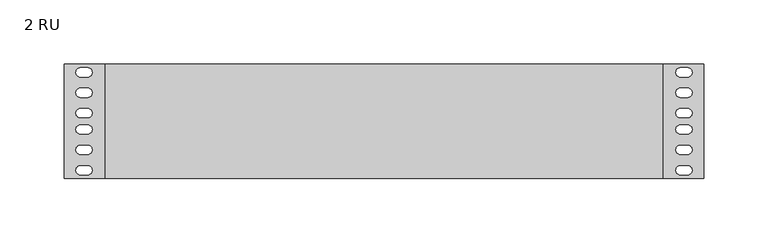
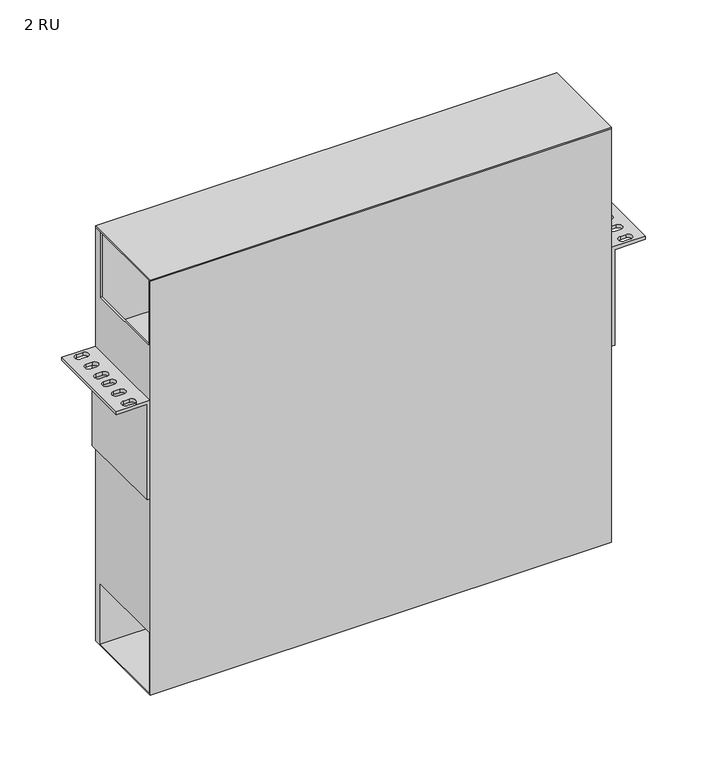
"""IFC4 building model written with IfcOpenShell, lengths in millimetres: electric appliance geometry, Housing-Rack_Mount-Corning-LANScape : 2 RU."""

from ifc_helpers import new_model, si_unit, frame, origin, place, context, project, spatial, polyline, circle_curve, outline, extrude, faceted_brep, source, transform, mapped, element, save
from ifc_brep_helpers import plane_surface, revolved_surface, advanced_brep


def electric_appliance_2_ru_f6e7ead4(model_context):
    return source(origin(), model_context, "Body", "SolidModel", [
        extrude(outline(polyline([(216.5858, 0.0), (216.5858, -88.9), (-216.5858, -88.9), (-216.5858, 0.0), (216.5858, 0.0)])), frame((0.0, 0.0, 120.9548), z_axis=(0.0, 0.0, 1.0), x_axis=(1.0, 0.0, 0.0)), (0.0, 0.0, 1.0), 1.39446),
        faceted_brep([(216.5858, -88.9, 120.9548), (-216.5858, -88.9, 120.9548), (-216.5858, -88.9, -289.3568), (216.5858, -88.9, -289.3568), (216.5858, 0.0, 120.9548), (216.5858, 0.0, -289.3568), (-216.5858, 0.0, -289.3568), (-216.5858, 0.0, 120.9548), (216.5858, -87.3125, 120.9548), (-216.5858, -87.3125, 120.9548), (-216.5858, -7.9375, 120.9548), (-214.9983, -7.9375, 120.9548), (-214.9983, -1.5875, 120.9548), (214.9983, -1.5875, 120.9548), (214.9983, -7.9375, 120.9548), (216.5858, -7.9375, 120.9548), (-216.5858, -87.3125, 56.36514), (-216.5858, -7.9375, 56.36514), (-216.5858, -87.3125, -228.39172), (-216.5858, -87.3125, -287.7693), (-216.5858, -7.9375, -287.7693), (-216.5858, -7.9375, -228.39172), (216.5858, -7.9375, 56.36514), (216.5858, -87.3125, 56.36514), (216.5858, -87.3125, -287.7693), (216.5858, -87.3125, -228.39172), (216.5858, -7.9375, -228.39172), (216.5858, -7.9375, -287.7693), (-214.9983, -1.5875, 21.08454), (214.9983, -1.5875, 21.08454), (214.9983, -87.3125, 21.08454), (-214.9983, -87.3125, 21.08454), (-214.9983, -87.3125, 56.36514), (214.9983, -87.3125, 56.36514), (214.9983, -7.9375, 56.36514), (-214.9983, -7.9375, 56.36514)], [[[0, 1, 2, 3]], [[4, 5, 6, 7]], [[1, 0, 8, 9]], [[4, 7, 10, 11, 12, 13, 14, 15]], [[2, 1, 9, 16, 17, 10, 7, 6], [18, 19, 20, 21]], [[3, 2, 6, 5]], [[0, 3, 5, 4, 15, 22, 23, 8], [24, 25, 26, 27]], [[12, 28, 29, 13]], [[30, 31, 32, 16, 9, 8, 23, 33]], [[13, 29, 30, 33, 34, 14]], [[29, 28, 31, 30]], [[28, 12, 11, 35, 32, 31]], [[18, 25, 24, 19]], [[19, 24, 27, 20]], [[20, 27, 26, 21]], [[25, 18, 21, 26]], [[16, 32, 35, 17]], [[33, 23, 22, 34]], [[34, 22, 15, 14]], [[17, 35, 11, 10]]]),
        advanced_brep(
        [(-248.4374, -88.9, 0.0), (-219.45346, -88.9, 0.0), (-219.45346, -88.9, -94.74708), (-216.5858, -88.9, -94.74708), (-216.5858, -88.9, 3.05054), (-248.4374, -88.9, 3.05054), (-248.4374, 0.0, 0.0), (-248.4374, 0.0, 3.05054), (-216.5858, 0.0, 3.05054), (-216.5858, 0.0, -94.74708), (-219.45346, 0.0, -94.74708), (-219.45346, 0.0, 0.0), (-230.3272, -2.794, 0.0), (-235.9152, -2.794, 0.0), (-235.9152, -9.906, 0.0), (-230.3272, -9.906, 0.0), (-230.3272, -18.669, 0.0), (-235.9152, -18.669, 0.0), (-235.9152, -25.781, 0.0), (-230.3272, -25.781, 0.0), (-230.3272, -34.544, 0.0), (-235.9152, -34.544, 0.0), (-235.9152, -41.656, 0.0), (-230.3272, -41.656, 0.0), (-230.3272, -47.244, 0.0), (-235.9152, -47.244, 0.0), (-235.9152, -54.356, 0.0), (-230.3272, -54.356, 0.0), (-230.3272, -63.119, 0.0), (-235.9152, -63.119, 0.0), (-235.9152, -70.231, 0.0), (-230.3272, -70.231, 0.0), (-230.3272, -78.994, 0.0), (-235.9152, -78.994, 0.0), (-235.9152, -86.106, 0.0), (-230.3272, -86.106, 0.0), (-235.9152, -2.794, 3.05054), (-230.3272, -2.794, 3.05054), (-230.3272, -9.906, 3.05054), (-235.9152, -9.906, 3.05054), (-235.9152, -18.669, 3.05054), (-230.3272, -18.669, 3.05054), (-230.3272, -25.781, 3.05054), (-235.9152, -25.781, 3.05054), (-235.9152, -34.544, 3.05054), (-230.3272, -34.544, 3.05054), (-230.3272, -41.656, 3.05054), (-235.9152, -41.656, 3.05054), (-235.9152, -47.244, 3.05054), (-230.3272, -47.244, 3.05054), (-230.3272, -54.356, 3.05054), (-235.9152, -54.356, 3.05054), (-235.9152, -63.119, 3.05054), (-230.3272, -63.119, 3.05054), (-230.3272, -70.231, 3.05054), (-235.9152, -70.231, 3.05054), (-235.9152, -78.994, 3.05054), (-230.3272, -78.994, 3.05054), (-230.3272, -86.106, 3.05054), (-235.9152, -86.106, 3.05054)],
        [
            (0, 1),
            (1, 2),
            (2, 3),
            (3, 4),
            (4, 5),
            (5, 0),
            (6, 7),
            (7, 8),
            (8, 9),
            (9, 10),
            (10, 11),
            (11, 6),
            (0, 6),
            (11, 1),
            (12, 13),
            (13, 14, circle_curve(frame((-235.9152, -6.35, 0.0), z_axis=(0.0, 0.0, 1.0), x_axis=(-1.0, 0.0, 0.0)), 3.556)),
            (14, 15),
            (15, 12, circle_curve(frame((-230.3272, -6.35, 0.0), z_axis=(0.0, 0.0, 1.0), x_axis=(-1.0, 0.0, 0.0)), 3.556)),
            (16, 17),
            (17, 18, circle_curve(frame((-235.9152, -22.225, 0.0), z_axis=(0.0, 0.0, 1.0), x_axis=(-1.0, 0.0, 0.0)), 3.556)),
            (18, 19),
            (19, 16, circle_curve(frame((-230.3272, -22.225, 0.0), z_axis=(0.0, 0.0, 1.0), x_axis=(-1.0, 0.0, 0.0)), 3.556)),
            (20, 21),
            (21, 22, circle_curve(frame((-235.9152, -38.1, 0.0), z_axis=(0.0, 0.0, 1.0), x_axis=(-1.0, 0.0, 0.0)), 3.556)),
            (22, 23),
            (23, 20, circle_curve(frame((-230.3272, -38.1, 0.0), z_axis=(0.0, 0.0, 1.0), x_axis=(-1.0, 0.0, 0.0)), 3.556)),
            (24, 25),
            (25, 26, circle_curve(frame((-235.9152, -50.8, 0.0), z_axis=(0.0, 0.0, 1.0), x_axis=(-1.0, 0.0, 0.0)), 3.556)),
            (26, 27),
            (27, 24, circle_curve(frame((-230.3272, -50.8, 0.0), z_axis=(0.0, 0.0, 1.0), x_axis=(-1.0, 0.0, 0.0)), 3.556)),
            (28, 29),
            (29, 30, circle_curve(frame((-235.9152, -66.675, 0.0), z_axis=(0.0, 0.0, 1.0), x_axis=(-1.0, 0.0, 0.0)), 3.556)),
            (30, 31),
            (31, 28, circle_curve(frame((-230.3272, -66.675, 0.0), z_axis=(0.0, 0.0, 1.0), x_axis=(-1.0, 0.0, 0.0)), 3.556)),
            (32, 33),
            (33, 34, circle_curve(frame((-235.9152, -82.55, 0.0), z_axis=(0.0, 0.0, 1.0), x_axis=(-1.0, 0.0, 0.0)), 3.556)),
            (34, 35),
            (35, 32, circle_curve(frame((-230.3272, -82.55, 0.0), z_axis=(0.0, 0.0, 1.0), x_axis=(-1.0, 0.0, 0.0)), 3.556)),
            (10, 2),
            (9, 3),
            (8, 4),
            (7, 5),
            (36, 37),
            (37, 38, circle_curve(frame((-230.3272, -6.35, 3.05054), z_axis=(0.0, 0.0, -1.0), x_axis=(-1.0, 0.0, 0.0)), 3.556)),
            (38, 39),
            (39, 36, circle_curve(frame((-235.9152, -6.35, 3.05054), z_axis=(0.0, 0.0, -1.0), x_axis=(-1.0, 0.0, 0.0)), 3.556)),
            (40, 41),
            (41, 42, circle_curve(frame((-230.3272, -22.225, 3.05054), z_axis=(0.0, 0.0, -1.0), x_axis=(-1.0, 0.0, 0.0)), 3.556)),
            (42, 43),
            (43, 40, circle_curve(frame((-235.9152, -22.225, 3.05054), z_axis=(0.0, 0.0, -1.0), x_axis=(-1.0, 0.0, 0.0)), 3.556)),
            (44, 45),
            (45, 46, circle_curve(frame((-230.3272, -38.1, 3.05054), z_axis=(0.0, 0.0, -1.0), x_axis=(-1.0, 0.0, 0.0)), 3.556)),
            (46, 47),
            (47, 44, circle_curve(frame((-235.9152, -38.1, 3.05054), z_axis=(0.0, 0.0, -1.0), x_axis=(-1.0, 0.0, 0.0)), 3.556)),
            (48, 49),
            (49, 50, circle_curve(frame((-230.3272, -50.8, 3.05054), z_axis=(0.0, 0.0, -1.0), x_axis=(-1.0, 0.0, 0.0)), 3.556)),
            (50, 51),
            (51, 48, circle_curve(frame((-235.9152, -50.8, 3.05054), z_axis=(0.0, 0.0, -1.0), x_axis=(-1.0, 0.0, 0.0)), 3.556)),
            (52, 53),
            (53, 54, circle_curve(frame((-230.3272, -66.675, 3.05054), z_axis=(0.0, 0.0, -1.0), x_axis=(-1.0, 0.0, 0.0)), 3.556)),
            (54, 55),
            (55, 52, circle_curve(frame((-235.9152, -66.675, 3.05054), z_axis=(0.0, 0.0, -1.0), x_axis=(-1.0, 0.0, 0.0)), 3.556)),
            (56, 57),
            (57, 58, circle_curve(frame((-230.3272, -82.55, 3.05054), z_axis=(0.0, 0.0, -1.0), x_axis=(-1.0, 0.0, 0.0)), 3.556)),
            (58, 59),
            (59, 56, circle_curve(frame((-235.9152, -82.55, 3.05054), z_axis=(0.0, 0.0, -1.0), x_axis=(-1.0, 0.0, 0.0)), 3.556)),
            (36, 13),
            (12, 37),
            (39, 14),
            (38, 15),
            (40, 17),
            (16, 41),
            (43, 18),
            (42, 19),
            (44, 21),
            (20, 45),
            (47, 22),
            (46, 23),
            (48, 25),
            (24, 49),
            (51, 26),
            (50, 27),
            (52, 29),
            (28, 53),
            (55, 30),
            (54, 31),
            (56, 33),
            (32, 57),
            (59, 34),
            (58, 35),
        ],
        [
            plane_surface(frame((-216.5858, -88.9, 0.0), z_axis=(0.0, -1.0, 0.0), x_axis=(1.0, 0.0, 0.0))),
            plane_surface(frame((-216.5858, 0.0, 0.0), z_axis=(0.0, 1.0, 0.0), x_axis=(-1.0, 0.0, 0.0))),
            plane_surface(frame((-248.4374, -88.9, 0.0), z_axis=(0.0, 0.0, -1.0), x_axis=(0.0, 1.0, 0.0))),
            plane_surface(frame((-219.45346, -88.9, 0.0), z_axis=(-1.0, 0.0, 0.0), x_axis=(0.0, 1.0, 0.0))),
            plane_surface(frame((-219.45346, -88.9, -94.74708), z_axis=(0.0, 0.0, -1.0), x_axis=(0.0, 1.0, 0.0))),
            plane_surface(frame((-216.5858, -88.9, -94.74708), z_axis=(1.0, 0.0, 0.0), x_axis=(0.0, 1.0, 0.0))),
            plane_surface(frame((-216.5858, -88.9, 3.05054), z_axis=(0.0, 0.0, 1.0), x_axis=(0.0, 1.0, 0.0))),
            plane_surface(frame((-248.4374, -88.9, 3.05054), z_axis=(-1.0, 0.0, 0.0), x_axis=(0.0, 1.0, 0.0))),
            plane_surface(frame((-230.3272, -2.794, 3.05054), z_axis=(0.0, -1.0, 0.0), x_axis=(0.0, 0.0, -1.0))),
            revolved_surface(polyline([(-239.4712, -6.35, 3.05054), (-239.4712, -6.35, 0.0)]), (-235.9152, -6.35, 0.0), (0.0, 0.0, 1.0)),
            plane_surface(frame((-235.9152, -9.906, 3.05054), z_axis=(0.0, 1.0, 0.0), x_axis=(0.0, 0.0, -1.0))),
            revolved_surface(polyline([(-233.88320000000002, -6.35, 3.05054), (-233.88320000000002, -6.35, 0.0)]), (-230.3272, -6.35, 0.0), (0.0, 0.0, 1.0)),
            plane_surface(frame((-230.3272, -18.669, 3.05054), z_axis=(0.0, -1.0, 0.0), x_axis=(0.0, 0.0, -1.0))),
            revolved_surface(polyline([(-239.4712, -22.225, 3.05054), (-239.4712, -22.225, 0.0)]), (-235.9152, -22.225, 0.0), (0.0, 0.0, 1.0)),
            plane_surface(frame((-235.9152, -25.781, 3.05054), z_axis=(0.0, 1.0, 0.0), x_axis=(0.0, 0.0, -1.0))),
            revolved_surface(polyline([(-233.88320000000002, -22.225, 3.05054), (-233.88320000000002, -22.225, 0.0)]), (-230.3272, -22.225, 0.0), (0.0, 0.0, 1.0)),
            plane_surface(frame((-230.3272, -34.544, 3.05054), z_axis=(0.0, -1.0, 0.0), x_axis=(0.0, 0.0, -1.0))),
            revolved_surface(polyline([(-239.4712, -38.1, 3.05054), (-239.4712, -38.1, 0.0)]), (-235.9152, -38.1, 0.0), (0.0, 0.0, 1.0)),
            plane_surface(frame((-235.9152, -41.656, 3.05054), z_axis=(0.0, 1.0, 0.0), x_axis=(0.0, 0.0, -1.0))),
            revolved_surface(polyline([(-233.88320000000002, -38.1, 3.05054), (-233.88320000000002, -38.1, 0.0)]), (-230.3272, -38.1, 0.0), (0.0, 0.0, 1.0)),
            plane_surface(frame((-230.3272, -47.244, 3.05054), z_axis=(0.0, -1.0, 0.0), x_axis=(0.0, 0.0, -1.0))),
            revolved_surface(polyline([(-239.4712, -50.8, 3.05054), (-239.4712, -50.8, 0.0)]), (-235.9152, -50.8, 0.0), (0.0, 0.0, 1.0)),
            plane_surface(frame((-235.9152, -54.356, 3.05054), z_axis=(0.0, 1.0, 0.0), x_axis=(0.0, 0.0, -1.0))),
            revolved_surface(polyline([(-233.88320000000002, -50.8, 3.05054), (-233.88320000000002, -50.8, 0.0)]), (-230.3272, -50.8, 0.0), (0.0, 0.0, 1.0)),
            plane_surface(frame((-230.3272, -63.119, 3.05054), z_axis=(0.0, -1.0, 0.0), x_axis=(0.0, 0.0, -1.0))),
            revolved_surface(polyline([(-239.4712, -66.675, 3.05054), (-239.4712, -66.675, 0.0)]), (-235.9152, -66.675, 0.0), (0.0, 0.0, 1.0)),
            plane_surface(frame((-235.9152, -70.231, 3.05054), z_axis=(0.0, 1.0, 0.0), x_axis=(0.0, 0.0, -1.0))),
            revolved_surface(polyline([(-233.88320000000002, -66.675, 3.05054), (-233.88320000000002, -66.675, 0.0)]), (-230.3272, -66.675, 0.0), (0.0, 0.0, 1.0)),
            plane_surface(frame((-230.3272, -78.994, 3.05054), z_axis=(0.0, -1.0, 0.0), x_axis=(0.0, 0.0, -1.0))),
            revolved_surface(polyline([(-239.4712, -82.55, 3.05054), (-239.4712, -82.55, 0.0)]), (-235.9152, -82.55, 0.0), (0.0, 0.0, 1.0)),
            plane_surface(frame((-235.9152, -86.106, 3.05054), z_axis=(0.0, 1.0, 0.0), x_axis=(0.0, 0.0, -1.0))),
            revolved_surface(polyline([(-233.88320000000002, -82.55, 3.05054), (-233.88320000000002, -82.55, 0.0)]), (-230.3272, -82.55, 0.0), (0.0, 0.0, 1.0)),
        ],
        [
            (0, [[1, 2, 3, 4, 5, 6]]),
            (1, [[7, 8, 9, 10, 11, 12]]),
            (2, [[-1, 13, -12, 14], [15, 16, 17, 18], [19, 20, 21, 22], [23, 24, 25, 26], [27, 28, 29, 30], [31, 32, 33, 34], [35, 36, 37, 38]]),
            (3, [[-2, -14, -11, 39]]),
            (4, [[-3, -39, -10, 40]]),
            (5, [[-4, -40, -9, 41]]),
            (6, [[-5, -41, -8, 42], [43, 44, 45, 46], [47, 48, 49, 50], [51, 52, 53, 54], [55, 56, 57, 58], [59, 60, 61, 62], [63, 64, 65, 66]]),
            (7, [[-6, -42, -7, -13]]),
            (8, [[67, -15, 68, -43]]),
            (9, [[-67, -46, 69, -16]]),
            (10, [[-69, -45, 70, -17]]),
            (11, [[-68, -18, -70, -44]]),
            (12, [[71, -19, 72, -47]]),
            (13, [[-71, -50, 73, -20]]),
            (14, [[-73, -49, 74, -21]]),
            (15, [[-72, -22, -74, -48]]),
            (16, [[75, -23, 76, -51]]),
            (17, [[-75, -54, 77, -24]]),
            (18, [[-77, -53, 78, -25]]),
            (19, [[-76, -26, -78, -52]]),
            (20, [[79, -27, 80, -55]]),
            (21, [[-79, -58, 81, -28]]),
            (22, [[-81, -57, 82, -29]]),
            (23, [[-80, -30, -82, -56]]),
            (24, [[83, -31, 84, -59]]),
            (25, [[-83, -62, 85, -32]]),
            (26, [[-85, -61, 86, -33]]),
            (27, [[-84, -34, -86, -60]]),
            (28, [[87, -35, 88, -63]]),
            (29, [[-87, -66, 89, -36]]),
            (30, [[-89, -65, 90, -37]]),
            (31, [[-88, -38, -90, -64]]),
        ],
    ),
        advanced_brep(
        [(248.4374, -88.9, 0.0), (248.4374, -88.9, 3.05054), (216.5858, -88.9, 3.05054), (216.5858, -88.9, -94.74708), (219.45346, -88.9, -94.74708), (219.45346, -88.9, 0.0), (248.4374, 0.0, 0.0), (219.45346, 0.0, 0.0), (219.45346, 0.0, -94.74708), (216.5858, 0.0, -94.74708), (216.5858, 0.0, 3.05054), (248.4374, 0.0, 3.05054), (230.3272, -9.906, 3.05054), (230.3272, -2.794, 3.05054), (235.9152, -2.794, 3.05054), (235.9152, -9.906, 3.05054), (230.3272, -25.781, 3.05054), (230.3272, -18.669, 3.05054), (235.9152, -18.669, 3.05054), (235.9152, -25.781, 3.05054), (230.3272, -41.656, 3.05054), (230.3272, -34.544, 3.05054), (235.9152, -34.544, 3.05054), (235.9152, -41.656, 3.05054), (230.3272, -54.356, 3.05054), (230.3272, -47.244, 3.05054), (235.9152, -47.244, 3.05054), (235.9152, -54.356, 3.05054), (230.3272, -70.231, 3.05054), (230.3272, -63.119, 3.05054), (235.9152, -63.119, 3.05054), (235.9152, -70.231, 3.05054), (230.3272, -86.106, 3.05054), (230.3272, -78.994, 3.05054), (235.9152, -78.994, 3.05054), (235.9152, -86.106, 3.05054), (230.3272, -2.794, 0.0), (230.3272, -9.906, 0.0), (235.9152, -9.906, 0.0), (235.9152, -2.794, 0.0), (230.3272, -18.669, 0.0), (230.3272, -25.781, 0.0), (235.9152, -25.781, 0.0), (235.9152, -18.669, 0.0), (230.3272, -34.544, 0.0), (230.3272, -41.656, 0.0), (235.9152, -41.656, 0.0), (235.9152, -34.544, 0.0), (230.3272, -47.244, 0.0), (230.3272, -54.356, 0.0), (235.9152, -54.356, 0.0), (235.9152, -47.244, 0.0), (230.3272, -63.119, 0.0), (230.3272, -70.231, 0.0), (235.9152, -70.231, 0.0), (235.9152, -63.119, 0.0), (230.3272, -78.994, 0.0), (230.3272, -86.106, 0.0), (235.9152, -86.106, 0.0), (235.9152, -78.994, 0.0)],
        [
            (0, 1),
            (1, 2),
            (2, 3),
            (3, 4),
            (4, 5),
            (5, 0),
            (6, 7),
            (7, 8),
            (8, 9),
            (9, 10),
            (10, 11),
            (11, 6),
            (0, 6),
            (11, 1),
            (10, 2),
            (12, 13, circle_curve(frame((230.3272, -6.35, 3.05054), z_axis=(0.0, 0.0, -1.0), x_axis=(-1.0, 0.0, 0.0)), 3.556)),
            (13, 14),
            (14, 15, circle_curve(frame((235.9152, -6.35, 3.05054), z_axis=(0.0, 0.0, -1.0), x_axis=(-1.0, 0.0, 0.0)), 3.556)),
            (15, 12),
            (16, 17, circle_curve(frame((230.3272, -22.225, 3.05054), z_axis=(0.0, 0.0, -1.0), x_axis=(-1.0, 0.0, 0.0)), 3.556)),
            (17, 18),
            (18, 19, circle_curve(frame((235.9152, -22.225, 3.05054), z_axis=(0.0, 0.0, -1.0), x_axis=(-1.0, 0.0, 0.0)), 3.556)),
            (19, 16),
            (20, 21, circle_curve(frame((230.3272, -38.1, 3.05054), z_axis=(0.0, 0.0, -1.0), x_axis=(-1.0, 0.0, 0.0)), 3.556)),
            (21, 22),
            (22, 23, circle_curve(frame((235.9152, -38.1, 3.05054), z_axis=(0.0, 0.0, -1.0), x_axis=(-1.0, 0.0, 0.0)), 3.556)),
            (23, 20),
            (24, 25, circle_curve(frame((230.3272, -50.8, 3.05054), z_axis=(0.0, 0.0, -1.0), x_axis=(-1.0, 0.0, 0.0)), 3.556)),
            (25, 26),
            (26, 27, circle_curve(frame((235.9152, -50.8, 3.05054), z_axis=(0.0, 0.0, -1.0), x_axis=(-1.0, 0.0, 0.0)), 3.556)),
            (27, 24),
            (28, 29, circle_curve(frame((230.3272, -66.675, 3.05054), z_axis=(0.0, 0.0, -1.0), x_axis=(-1.0, 0.0, 0.0)), 3.556)),
            (29, 30),
            (30, 31, circle_curve(frame((235.9152, -66.675, 3.05054), z_axis=(0.0, 0.0, -1.0), x_axis=(-1.0, 0.0, 0.0)), 3.556)),
            (31, 28),
            (32, 33, circle_curve(frame((230.3272, -82.55, 3.05054), z_axis=(0.0, 0.0, -1.0), x_axis=(-1.0, 0.0, 0.0)), 3.556)),
            (33, 34),
            (34, 35, circle_curve(frame((235.9152, -82.55, 3.05054), z_axis=(0.0, 0.0, -1.0), x_axis=(-1.0, 0.0, 0.0)), 3.556)),
            (35, 32),
            (9, 3),
            (8, 4),
            (7, 5),
            (36, 37, circle_curve(frame((230.3272, -6.35, 0.0), z_axis=(0.0, 0.0, 1.0), x_axis=(-1.0, 0.0, 0.0)), 3.556)),
            (37, 38),
            (38, 39, circle_curve(frame((235.9152, -6.35, 0.0), z_axis=(0.0, 0.0, 1.0), x_axis=(-1.0, 0.0, 0.0)), 3.556)),
            (39, 36),
            (40, 41, circle_curve(frame((230.3272, -22.225, 0.0), z_axis=(0.0, 0.0, 1.0), x_axis=(-1.0, 0.0, 0.0)), 3.556)),
            (41, 42),
            (42, 43, circle_curve(frame((235.9152, -22.225, 0.0), z_axis=(0.0, 0.0, 1.0), x_axis=(-1.0, 0.0, 0.0)), 3.556)),
            (43, 40),
            (44, 45, circle_curve(frame((230.3272, -38.1, 0.0), z_axis=(0.0, 0.0, 1.0), x_axis=(-1.0, 0.0, 0.0)), 3.556)),
            (45, 46),
            (46, 47, circle_curve(frame((235.9152, -38.1, 0.0), z_axis=(0.0, 0.0, 1.0), x_axis=(-1.0, 0.0, 0.0)), 3.556)),
            (47, 44),
            (48, 49, circle_curve(frame((230.3272, -50.8, 0.0), z_axis=(0.0, 0.0, 1.0), x_axis=(-1.0, 0.0, 0.0)), 3.556)),
            (49, 50),
            (50, 51, circle_curve(frame((235.9152, -50.8, 0.0), z_axis=(0.0, 0.0, 1.0), x_axis=(-1.0, 0.0, 0.0)), 3.556)),
            (51, 48),
            (52, 53, circle_curve(frame((230.3272, -66.675, 0.0), z_axis=(0.0, 0.0, 1.0), x_axis=(-1.0, 0.0, 0.0)), 3.556)),
            (53, 54),
            (54, 55, circle_curve(frame((235.9152, -66.675, 0.0), z_axis=(0.0, 0.0, 1.0), x_axis=(-1.0, 0.0, 0.0)), 3.556)),
            (55, 52),
            (56, 57, circle_curve(frame((230.3272, -82.55, 0.0), z_axis=(0.0, 0.0, 1.0), x_axis=(-1.0, 0.0, 0.0)), 3.556)),
            (57, 58),
            (58, 59, circle_curve(frame((235.9152, -82.55, 0.0), z_axis=(0.0, 0.0, 1.0), x_axis=(-1.0, 0.0, 0.0)), 3.556)),
            (59, 56),
            (12, 37),
            (36, 13),
            (15, 38),
            (14, 39),
            (16, 41),
            (40, 17),
            (19, 42),
            (18, 43),
            (20, 45),
            (44, 21),
            (23, 46),
            (22, 47),
            (24, 49),
            (48, 25),
            (27, 50),
            (26, 51),
            (28, 53),
            (52, 29),
            (31, 54),
            (30, 55),
            (32, 57),
            (56, 33),
            (35, 58),
            (34, 59),
        ],
        [
            plane_surface(frame((-216.5858, -88.9, 0.0), z_axis=(0.0, -1.0, 0.0), x_axis=(1.0, 0.0, 0.0))),
            plane_surface(frame((-216.5858, 0.0, 0.0), z_axis=(0.0, 1.0, 0.0), x_axis=(-1.0, 0.0, 0.0))),
            plane_surface(frame((248.4374, -88.9, 0.0), z_axis=(1.0, 0.0, 0.0), x_axis=(0.0, 1.0, 0.0))),
            plane_surface(frame((248.4374, -88.9, 3.05054), z_axis=(0.0, 0.0, 1.0), x_axis=(0.0, 1.0, 0.0))),
            plane_surface(frame((216.5858, -88.9, 3.05054), z_axis=(-1.0, 0.0, 0.0), x_axis=(0.0, 1.0, 0.0))),
            plane_surface(frame((216.5858, -88.9, -94.74708), z_axis=(0.0, 0.0, -1.0), x_axis=(0.0, 1.0, 0.0))),
            plane_surface(frame((219.45346, -88.9, -94.74708), z_axis=(1.0, 0.0, 0.0), x_axis=(0.0, 1.0, 0.0))),
            plane_surface(frame((219.45346, -88.9, 0.0), z_axis=(0.0, 0.0, -1.0), x_axis=(0.0, 1.0, 0.0))),
            revolved_surface(polyline([(226.7712, -6.35, 3.05054), (226.7712, -6.35, 0.0)]), (230.3272, -6.35, 0.0), (0.0, 0.0, 1.0)),
            plane_surface(frame((230.3272, -9.906, 3.05054), z_axis=(0.0, 1.0, 0.0), x_axis=(0.0, 0.0, -1.0))),
            revolved_surface(polyline([(232.3592, -6.35, 3.05054), (232.3592, -6.35, 0.0)]), (235.9152, -6.35, 0.0), (0.0, 0.0, 1.0)),
            plane_surface(frame((235.9152, -2.794, 3.05054), z_axis=(0.0, -1.0, 0.0), x_axis=(0.0, 0.0, -1.0))),
            revolved_surface(polyline([(226.7712, -22.225, 3.05054), (226.7712, -22.225, 0.0)]), (230.3272, -22.225, 0.0), (0.0, 0.0, 1.0)),
            plane_surface(frame((230.3272, -25.781, 3.05054), z_axis=(0.0, 1.0, 0.0), x_axis=(0.0, 0.0, -1.0))),
            revolved_surface(polyline([(232.3592, -22.225, 3.05054), (232.3592, -22.225, 0.0)]), (235.9152, -22.225, 0.0), (0.0, 0.0, 1.0)),
            plane_surface(frame((235.9152, -18.669, 3.05054), z_axis=(0.0, -1.0, 0.0), x_axis=(0.0, 0.0, -1.0))),
            revolved_surface(polyline([(226.7712, -38.1, 3.05054), (226.7712, -38.1, 0.0)]), (230.3272, -38.1, 0.0), (0.0, 0.0, 1.0)),
            plane_surface(frame((230.3272, -41.656, 3.05054), z_axis=(0.0, 1.0, 0.0), x_axis=(0.0, 0.0, -1.0))),
            revolved_surface(polyline([(232.3592, -38.1, 3.05054), (232.3592, -38.1, 0.0)]), (235.9152, -38.1, 0.0), (0.0, 0.0, 1.0)),
            plane_surface(frame((235.9152, -34.544, 3.05054), z_axis=(0.0, -1.0, 0.0), x_axis=(0.0, 0.0, -1.0))),
            revolved_surface(polyline([(226.7712, -50.8, 3.05054), (226.7712, -50.8, 0.0)]), (230.3272, -50.8, 0.0), (0.0, 0.0, 1.0)),
            plane_surface(frame((230.3272, -54.356, 3.05054), z_axis=(0.0, 1.0, 0.0), x_axis=(0.0, 0.0, -1.0))),
            revolved_surface(polyline([(232.3592, -50.8, 3.05054), (232.3592, -50.8, 0.0)]), (235.9152, -50.8, 0.0), (0.0, 0.0, 1.0)),
            plane_surface(frame((235.9152, -47.244, 3.05054), z_axis=(0.0, -1.0, 0.0), x_axis=(0.0, 0.0, -1.0))),
            revolved_surface(polyline([(226.7712, -66.675, 3.05054), (226.7712, -66.675, 0.0)]), (230.3272, -66.675, 0.0), (0.0, 0.0, 1.0)),
            plane_surface(frame((230.3272, -70.231, 3.05054), z_axis=(0.0, 1.0, 0.0), x_axis=(0.0, 0.0, -1.0))),
            revolved_surface(polyline([(232.3592, -66.675, 3.05054), (232.3592, -66.675, 0.0)]), (235.9152, -66.675, 0.0), (0.0, 0.0, 1.0)),
            plane_surface(frame((235.9152, -63.119, 3.05054), z_axis=(0.0, -1.0, 0.0), x_axis=(0.0, 0.0, -1.0))),
            revolved_surface(polyline([(226.7712, -82.55, 3.05054), (226.7712, -82.55, 0.0)]), (230.3272, -82.55, 0.0), (0.0, 0.0, 1.0)),
            plane_surface(frame((230.3272, -86.106, 3.05054), z_axis=(0.0, 1.0, 0.0), x_axis=(0.0, 0.0, -1.0))),
            revolved_surface(polyline([(232.3592, -82.55, 3.05054), (232.3592, -82.55, 0.0)]), (235.9152, -82.55, 0.0), (0.0, 0.0, 1.0)),
            plane_surface(frame((235.9152, -78.994, 3.05054), z_axis=(0.0, -1.0, 0.0), x_axis=(0.0, 0.0, -1.0))),
        ],
        [
            (0, [[1, 2, 3, 4, 5, 6]]),
            (1, [[7, 8, 9, 10, 11, 12]]),
            (2, [[-1, 13, -12, 14]]),
            (3, [[-2, -14, -11, 15], [16, 17, 18, 19], [20, 21, 22, 23], [24, 25, 26, 27], [28, 29, 30, 31], [32, 33, 34, 35], [36, 37, 38, 39]]),
            (4, [[-3, -15, -10, 40]]),
            (5, [[-4, -40, -9, 41]]),
            (6, [[-5, -41, -8, 42]]),
            (7, [[-6, -42, -7, -13], [43, 44, 45, 46], [47, 48, 49, 50], [51, 52, 53, 54], [55, 56, 57, 58], [59, 60, 61, 62], [63, 64, 65, 66]]),
            (8, [[67, -43, 68, -16]]),
            (9, [[-67, -19, 69, -44]]),
            (10, [[-69, -18, 70, -45]]),
            (11, [[-68, -46, -70, -17]]),
            (12, [[71, -47, 72, -20]]),
            (13, [[-71, -23, 73, -48]]),
            (14, [[-73, -22, 74, -49]]),
            (15, [[-72, -50, -74, -21]]),
            (16, [[75, -51, 76, -24]]),
            (17, [[-75, -27, 77, -52]]),
            (18, [[-77, -26, 78, -53]]),
            (19, [[-76, -54, -78, -25]]),
            (20, [[79, -55, 80, -28]]),
            (21, [[-79, -31, 81, -56]]),
            (22, [[-81, -30, 82, -57]]),
            (23, [[-80, -58, -82, -29]]),
            (24, [[83, -59, 84, -32]]),
            (25, [[-83, -35, 85, -60]]),
            (26, [[-85, -34, 86, -61]]),
            (27, [[-84, -62, -86, -33]]),
            (28, [[87, -63, 88, -36]]),
            (29, [[-87, -39, 89, -64]]),
            (30, [[-89, -38, 90, -65]]),
            (31, [[-88, -66, -90, -37]]),
        ],
    ),
    ])


if __name__ == "__main__":
    model = new_model("IFC4")
    model_context = context("Model", 3, world=origin())
    ifc_project = project(units=[si_unit("LENGTHUNIT", "METRE", prefix="MILLI")], contexts=[model_context])
    site = spatial("IfcSite", under=ifc_project)
    building = spatial("IfcBuilding", under=site)
    placement = place(None, origin())
    electric_appliance_2_ru_shape = electric_appliance_2_ru_f6e7ead4(model_context)
    element("IfcElectricAppliance", 1, ObjectType="Housing-Rack_Mount-Corning-LANScape : 2 RU", at=placement, inside=building, context=model_context, shape_type="MappedRepresentation", body=[
        mapped(electric_appliance_2_ru_shape, transform((0.0, 0.0, 0.0), x_axis=(1.0, 0.0, 0.0), y_axis=(0.0, 1.0, 0.0), z_axis=(0.0, 0.0, 1.0))),
    ])
    save(model, "model.ifc")
